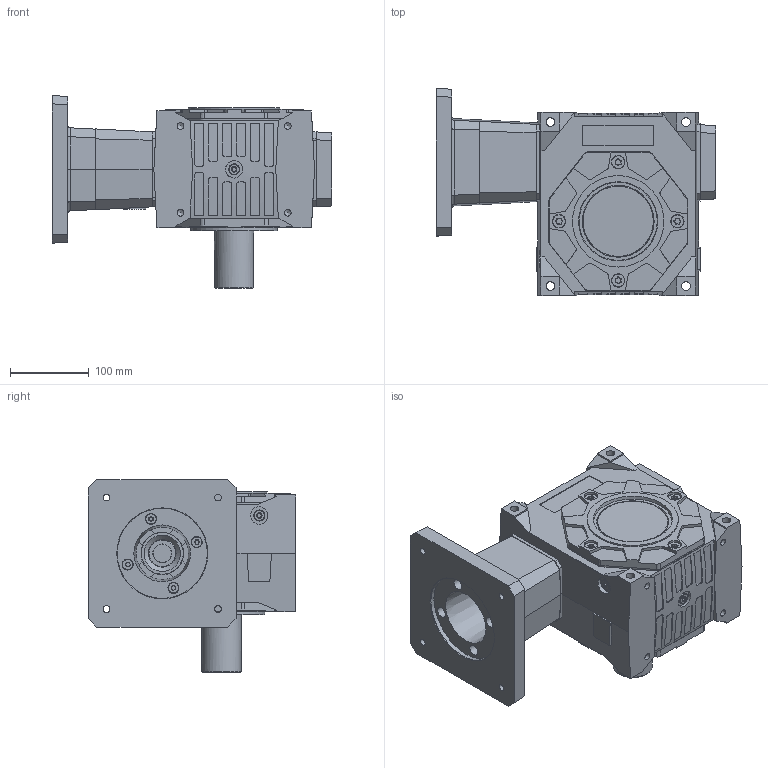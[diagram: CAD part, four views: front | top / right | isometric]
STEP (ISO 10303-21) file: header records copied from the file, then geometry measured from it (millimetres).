
FILE_DESCRIPTION( ( 'STEP AP203' ), '1' );
FILE_NAME( ' ', ' ', ( ' ' ), ( ' ' ), 'XStep 1.0', ' ', ' ' );
FILE_SCHEMA( ( 'CONFIG_CONTROL_DESIGN' ) );
Length unit declared in the file: millimetre
Products named in the file (33): 1; 2; 3; 4; 5; 6; 7; 8; 9; 10; 11; 12; 13; 14; 15; 16; 17; 18; 19; 20; 21; 22; 23; 24; 25; 26; 27; 28; 29; 30; 31; 32; 33
Bounding box: 355 x 262.55 x 244.55 mm (x, y, z)
Volume: 4656834.2 mm3; surface area: 907096.9 mm2
Topology: 33 solids, 33 shells, 1612 faces, 3970 edges, 2521 vertices
Faces by surface type: cylinder 694, plane 691, cone 129, torus 47, sphere 37, bspline 14
Full cylindrical faces by diameter (mm): 5 x10, 5.6 x10, 6.75 x10, 8 x8, 8.4 x1, 8.5 x60, 9 x4, 9.73 x8, 10 x24, 11 x16, 13 x4, 14 x10, 16 x12, 17 x4, 18 x7, 22 x5, 24 x1, 25 x1, 25.5 x1, 26.5 x2, 28 x1, 30 x1, 35 x1, 37 x1, 42 x1, 43.77 x1, 48 x1, 50 x1, 53.5 x1, 55 x2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
Entity records: 50055 total; most frequent: CARTESIAN_POINT 11749, DIRECTION 8024, ORIENTED_EDGE 6920, EDGE_CURVE 3460, AXIS2_PLACEMENT_3D 3158, VERTEX_POINT 2434, EDGE_LOOP 2209, FACE_OUTER_BOUND 1866
